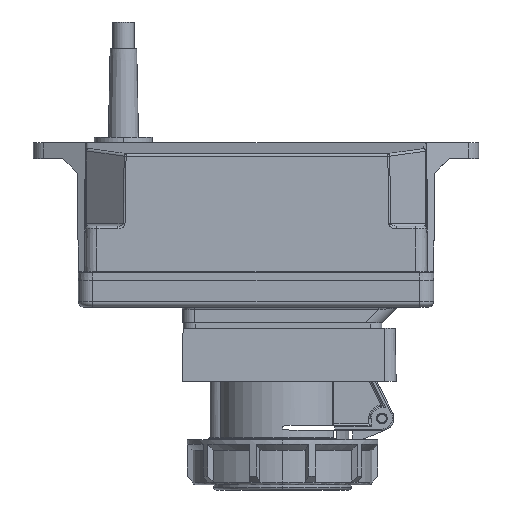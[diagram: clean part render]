
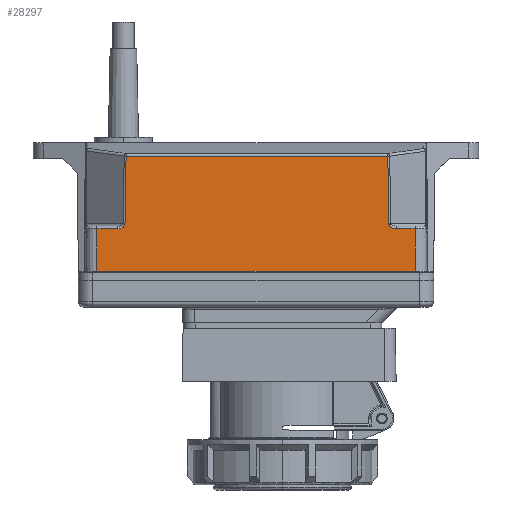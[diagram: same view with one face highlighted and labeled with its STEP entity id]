
A CAD part, left-side view. The second image highlights one B-rep face of the part: STEP entity #28297.
In plain terms, the highlighted planar face has unit normal (-1, 0, 0.009).
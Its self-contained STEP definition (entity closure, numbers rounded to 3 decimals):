
#1503 = CARTESIAN_POINT ( 'NONE',  ( -43.356, -51.292, 19.509 ) ) ;
#1892 = CARTESIAN_POINT ( 'NONE',  ( -43.356, -52.926, 19.509 ) ) ;
#2089 = CARTESIAN_POINT ( 'NONE',  ( -43.339, -50.115, 21.474 ) ) ;
#2170 = VECTOR ( 'NONE', #34650, 1000. ) ;
#2516 = VERTEX_POINT ( 'NONE', #32940 ) ;
#2978 = PLANE ( 'NONE',  #30300 ) ;
#3469 = VERTEX_POINT ( 'NONE', #6797 ) ;
#4280 = ORIENTED_EDGE ( 'NONE', *, *, #30387, .F. ) ;
#4421 = CARTESIAN_POINT ( 'NONE',  ( -43.496, -60., 3.496 ) ) ;
#4743 = DIRECTION ( 'NONE',  ( 0.009, 0.016, 1. ) ) ;
#4989 = LINE ( 'NONE', #13648, #31265 ) ;
#5081 = CARTESIAN_POINT ( 'NONE',  ( -43.356, 52.219, 19.509 ) ) ;
#5523 = CARTESIAN_POINT ( 'NONE',  ( -43.117, 49.403, 46.886 ) ) ;
#5936 = ORIENTED_EDGE ( 'NONE', *, *, #24924, .T. ) ;
#6449 = EDGE_LOOP ( 'NONE', ( #4280, #24671, #23055, #25578, #30562, #10653, #26253, #5936, #19678, #14087 ) ) ;
#6797 = CARTESIAN_POINT ( 'NONE',  ( -43.496, 60., 3.496 ) ) ;
#7397 = CARTESIAN_POINT ( 'NONE',  ( -43.356, 60., 19.509 ) ) ;
#7766 = VERTEX_POINT ( 'NONE', #7980 ) ;
#7980 = CARTESIAN_POINT ( 'NONE',  ( -43.117, 49.003, 46.886 ) ) ;
#8135 = CARTESIAN_POINT ( 'NONE',  ( -43.356, 50.585, 19.509 ) ) ;
#8718 = VECTOR ( 'NONE', #20531, 1000. ) ;
#9678 = VECTOR ( 'NONE', #4743, 1000. ) ;
#9970 = LINE ( 'NONE', #13191, #17868 ) ;
#10653 = ORIENTED_EDGE ( 'NONE', *, *, #31589, .T. ) ;
#11155 = CARTESIAN_POINT ( 'NONE',  ( -43.339, 49.408, 21.474 ) ) ;
#11285 = CARTESIAN_POINT ( 'NONE',  ( -43.5, -60., 3. ) ) ;
#12064 = VECTOR ( 'NONE', #36682, 1000. ) ;
#13191 = CARTESIAN_POINT ( 'NONE',  ( -43.356, 61.5, 19.509 ) ) ;
#13648 = CARTESIAN_POINT ( 'NONE',  ( -43.5, 60., 3. ) ) ;
#14087 = ORIENTED_EDGE ( 'NONE', *, *, #22844, .T. ) ;
#15060 = DIRECTION ( 'NONE',  ( -1., 0., 0.009 ) ) ;
#15334 = VECTOR ( 'NONE', #38116, 1000. ) ;
#16428 = VECTOR ( 'NONE', #28383, 1000. ) ;
#16504 = CARTESIAN_POINT ( 'NONE',  ( -43.339, -50.115, 21.474 ) ) ;
#17035 = CARTESIAN_POINT ( 'NONE',  ( -43.496, -60., 3.496 ) ) ;
#17773 = CARTESIAN_POINT ( 'NONE',  ( -43.356, -50.545, 19.509 ) ) ;
#17868 = VECTOR ( 'NONE', #36515, 1000. ) ;
#18897 = VERTEX_POINT ( 'NONE', #27459 ) ;
#19678 = ORIENTED_EDGE ( 'NONE', *, *, #24401, .F. ) ;
#20531 = DIRECTION ( 'NONE',  ( 0., 1., 0. ) ) ;
#20852 = CARTESIAN_POINT ( 'NONE',  ( -43.5, 61.5, 3. ) ) ;
#21133 = VERTEX_POINT ( 'NONE', #25983 ) ;
#21648 = VERTEX_POINT ( 'NONE', #2089 ) ;
#22353 = CARTESIAN_POINT ( 'NONE',  ( -43.356, -52.926, 19.509 ) ) ;
#22844 = EDGE_CURVE ( 'NONE', #21133, #27421, #9970, .T. ) ;
#23055 = ORIENTED_EDGE ( 'NONE', *, *, #30560, .T. ) ;
#23129 = LINE ( 'NONE', #17773, #15334 ) ;
#23252 = LINE ( 'NONE', #25508, #16428 ) ;
#24401 = EDGE_CURVE ( 'NONE', #21133, #31070, #27893, .T. ) ;
#24671 = ORIENTED_EDGE ( 'NONE', *, *, #29251, .T. ) ;
#24924 = EDGE_CURVE ( 'NONE', #7766, #31070, #23252, .T. ) ;
#25468 = CARTESIAN_POINT ( 'NONE',  ( -43.11, -49.696, 47.741 ) ) ;
#25508 = CARTESIAN_POINT ( 'NONE',  ( -43.347, 49.424, 20.493 ) ) ;
#25578 = ORIENTED_EDGE ( 'NONE', *, *, #30681, .T. ) ;
#25983 = CARTESIAN_POINT ( 'NONE',  ( -43.356, 52.219, 19.509 ) ) ;
#26216 = LINE ( 'NONE', #5523, #8718 ) ;
#26253 = ORIENTED_EDGE ( 'NONE', *, *, #31642, .T. ) ;
#26724 = LINE ( 'NONE', #11285, #2170 ) ;
#27421 = VERTEX_POINT ( 'NONE', #7397 ) ;
#27459 = CARTESIAN_POINT ( 'NONE',  ( -43.117, -49.71, 46.886 ) ) ;
#27626 = LINE ( 'NONE', #4421, #12064 ) ;
#27893 =( BOUNDED_CURVE ( )  B_SPLINE_CURVE ( 3, ( #5081, #8135, #28673, #11155 ),
 .UNSPECIFIED., .F., .T. ) 
 B_SPLINE_CURVE_WITH_KNOTS ( ( 4, 4 ),
 ( 4.725, 6.278 ),
 .UNSPECIFIED. ) 
 CURVE ( )  GEOMETRIC_REPRESENTATION_ITEM ( )  RATIONAL_B_SPLINE_CURVE ( ( 1., 0.809, 0.809, 1. ) ) 
 REPRESENTATION_ITEM ( '' )  );
#28297 = ADVANCED_FACE ( 'NONE', ( #29826 ), #2978, .T. ) ;
#28383 = DIRECTION ( 'NONE',  ( -0.009, 0.016, -1. ) ) ;
#28673 = CARTESIAN_POINT ( 'NONE',  ( -43.349, 49.427, 20.319 ) ) ;
#29251 = EDGE_CURVE ( 'NONE', #3469, #37611, #27626, .T. ) ;
#29826 = FACE_OUTER_BOUND ( 'NONE', #6449, .T. ) ;
#30300 = AXIS2_PLACEMENT_3D ( 'NONE', #20852, #15060, #35403 ) ;
#30387 = EDGE_CURVE ( 'NONE', #3469, #27421, #4989, .T. ) ;
#30560 = EDGE_CURVE ( 'NONE', #37611, #2516, #26724, .T. ) ;
#30562 = ORIENTED_EDGE ( 'NONE', *, *, #30940, .F. ) ;
#30681 = EDGE_CURVE ( 'NONE', #2516, #35212, #23129, .T. ) ;
#30940 = EDGE_CURVE ( 'NONE', #21648, #35212, #34624, .T. ) ;
#31070 = VERTEX_POINT ( 'NONE', #34366 ) ;
#31265 = VECTOR ( 'NONE', #34049, 1000. ) ;
#31589 = EDGE_CURVE ( 'NONE', #21648, #18897, #33948, .T. ) ;
#31642 = EDGE_CURVE ( 'NONE', #18897, #7766, #26216, .T. ) ;
#32940 = CARTESIAN_POINT ( 'NONE',  ( -43.356, -60., 19.509 ) ) ;
#33874 = CARTESIAN_POINT ( 'NONE',  ( -43.349, -50.134, 20.319 ) ) ;
#33948 = LINE ( 'NONE', #25468, #9678 ) ;
#34049 = DIRECTION ( 'NONE',  ( 0.009, 0., 1. ) ) ;
#34366 = CARTESIAN_POINT ( 'NONE',  ( -43.339, 49.408, 21.474 ) ) ;
#34624 =( BOUNDED_CURVE ( )  B_SPLINE_CURVE ( 3, ( #16504, #33874, #1503, #22353 ),
 .UNSPECIFIED., .F., .T. ) 
 B_SPLINE_CURVE_WITH_KNOTS ( ( 4, 4 ),
 ( 0.005, 1.558 ),
 .UNSPECIFIED. ) 
 CURVE ( )  GEOMETRIC_REPRESENTATION_ITEM ( )  RATIONAL_B_SPLINE_CURVE ( ( 1., 0.809, 0.809, 1. ) ) 
 REPRESENTATION_ITEM ( '' )  );
#34650 = DIRECTION ( 'NONE',  ( 0.009, 0., 1. ) ) ;
#35212 = VERTEX_POINT ( 'NONE', #1892 ) ;
#35403 = DIRECTION ( 'NONE',  ( 0.009, 0., 1. ) ) ;
#36515 = DIRECTION ( 'NONE',  ( 0., 1., 0. ) ) ;
#36682 = DIRECTION ( 'NONE',  ( 0., -1., 0. ) ) ;
#37611 = VERTEX_POINT ( 'NONE', #17035 ) ;
#38116 = DIRECTION ( 'NONE',  ( 0., 1., 0. ) ) ;
